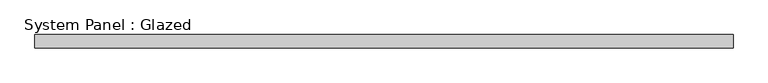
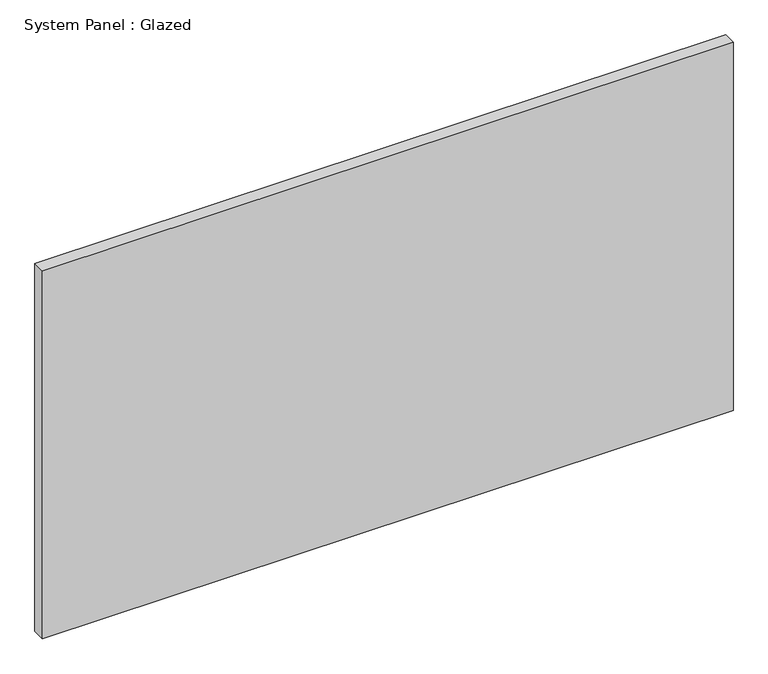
"""IFC4 building model written with IfcOpenShell, lengths in millimetres: plate geometry, System Panel : Glazed."""

from ifc_helpers import new_model, si_unit, origin, origin_with_axes, place, context, project, spatial, polyline, outline, extrude, source, transform, mapped, element, save


def system_panel_glazed_00c853e1(model_context):
    return source(origin(), model_context, "Body", "SweptSolid", [
        extrude(outline(polyline([(664.8304403, -49.5), (-664.8304403, -49.5), (-664.8304403, -24.5), (664.8304403, -24.5), (664.8304403, -49.5)])), origin_with_axes(), (0.0, 0.0, 1.0), 749.5150656),
    ])


if __name__ == "__main__":
    model = new_model("IFC4")
    model_context = context("Model", 3, world=origin())
    ifc_project = project(units=[si_unit("LENGTHUNIT", "METRE", prefix="MILLI")], contexts=[model_context])
    site = spatial("IfcSite", under=ifc_project)
    building = spatial("IfcBuilding", under=site)
    placement = place(None, origin())
    system_panel_glazed_shape = system_panel_glazed_00c853e1(model_context)
    element("IfcPlate", 1, ObjectType="System Panel : Glazed", at=placement, inside=building, context=model_context, shape_type="MappedRepresentation", body=[
        mapped(system_panel_glazed_shape, transform((0.0, 0.0, 0.0), x_axis=(1.0, 0.0, 0.0), y_axis=(0.0, 1.0, 0.0), z_axis=(0.0, 0.0, 1.0))),
    ])
    save(model, "model.ifc")
